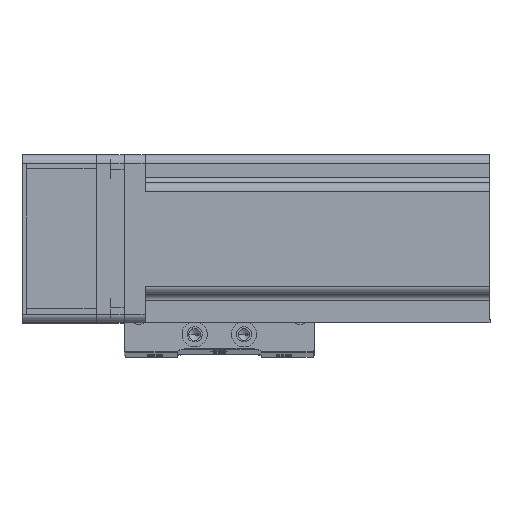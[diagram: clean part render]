
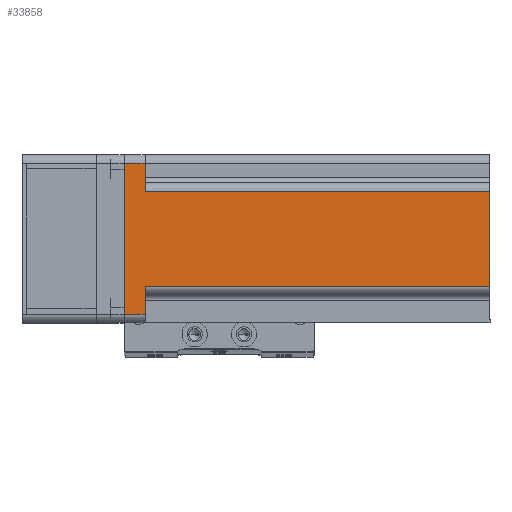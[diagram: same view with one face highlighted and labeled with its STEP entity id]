
A CAD part, top view. The second image highlights one B-rep face of the part: STEP entity #33858.
In plain terms, the highlighted planar face has unit normal (0, 0, 1) as drawn and (0, 1, 0) by its records, which use the part's own axes.
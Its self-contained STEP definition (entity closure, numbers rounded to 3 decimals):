
#231 = DIRECTION ( 'NONE',  ( 0., 0., 1. ) ) ;
#1192 = CARTESIAN_POINT ( 'NONE',  ( -27., 30., 0. ) ) ;
#1205 = EDGE_CURVE ( 'NONE', #46780, #19667, #17143, .T. ) ;
#2283 = CARTESIAN_POINT ( 'NONE',  ( 20., 30., 7.5 ) ) ;
#3023 = EDGE_CURVE ( 'NONE', #20417, #34731, #3530, .T. ) ;
#3398 = DIRECTION ( 'NONE',  ( -1., 0., 0. ) ) ;
#3530 = LINE ( 'NONE', #50076, #14124 ) ;
#3591 = DIRECTION ( 'NONE',  ( 0., 0., -1. ) ) ;
#5054 = CARTESIAN_POINT ( 'NONE',  ( 30., 30., 130.7 ) ) ;
#7333 = CARTESIAN_POINT ( 'NONE',  ( 27., 30., 0. ) ) ;
#9051 = DIRECTION ( 'NONE',  ( 1., 0., 0. ) ) ;
#10497 = CARTESIAN_POINT ( 'NONE',  ( 17., 30., 7.5 ) ) ;
#11724 = EDGE_CURVE ( 'NONE', #38547, #46780, #28233, .T. ) ;
#12965 = AXIS2_PLACEMENT_3D ( 'NONE', #5054, #33000, #9051 ) ;
#13140 = ORIENTED_EDGE ( 'NONE', *, *, #28049, .T. ) ;
#14124 = VECTOR ( 'NONE', #22193, 1000. ) ;
#15686 = DIRECTION ( 'NONE',  ( -1., 0., 0. ) ) ;
#16154 = DIRECTION ( 'NONE',  ( 0., 0., 1. ) ) ;
#17143 = LINE ( 'NONE', #41950, #18409 ) ;
#17170 = EDGE_CURVE ( 'NONE', #20417, #33855, #36175, .T. ) ;
#18409 = VECTOR ( 'NONE', #22066, 1000. ) ;
#19667 = VERTEX_POINT ( 'NONE', #35702 ) ;
#20417 = VERTEX_POINT ( 'NONE', #33344 ) ;
#20768 = PLANE ( 'NONE',  #12965 ) ;
#22066 = DIRECTION ( 'NONE',  ( 1., 0., 0. ) ) ;
#22193 = DIRECTION ( 'NONE',  ( 0., 0., -1. ) ) ;
#22200 = ORIENTED_EDGE ( 'NONE', *, *, #30706, .T. ) ;
#22619 = ORIENTED_EDGE ( 'NONE', *, *, #23698, .T. ) ;
#23698 = EDGE_CURVE ( 'NONE', #33697, #38547, #36717, .T. ) ;
#24177 = CARTESIAN_POINT ( 'NONE',  ( -27., 30., 130.7 ) ) ;
#25459 = VECTOR ( 'NONE', #3591, 1000. ) ;
#25491 = VECTOR ( 'NONE', #50071, 1000. ) ;
#26113 = VECTOR ( 'NONE', #3398, 1000. ) ;
#26957 = VECTOR ( 'NONE', #231, 1000. ) ;
#28049 = EDGE_CURVE ( 'NONE', #19667, #33855, #49908, .T. ) ;
#28233 = LINE ( 'NONE', #24177, #26957 ) ;
#28746 = VECTOR ( 'NONE', #16154, 1000. ) ;
#29916 = ORIENTED_EDGE ( 'NONE', *, *, #17170, .F. ) ;
#30706 = EDGE_CURVE ( 'NONE', #33840, #33697, #46635, .T. ) ;
#31036 = ORIENTED_EDGE ( 'NONE', *, *, #3023, .T. ) ;
#32636 = CARTESIAN_POINT ( 'NONE',  ( -27., 30., 7.5 ) ) ;
#32701 = ORIENTED_EDGE ( 'NONE', *, *, #50327, .F. ) ;
#33000 = DIRECTION ( 'NONE',  ( 0., -1., 0. ) ) ;
#33344 = CARTESIAN_POINT ( 'NONE',  ( 17., 30., 130.7 ) ) ;
#33697 = VERTEX_POINT ( 'NONE', #7333 ) ;
#33840 = VERTEX_POINT ( 'NONE', #40475 ) ;
#33855 = VERTEX_POINT ( 'NONE', #36666 ) ;
#33858 = ADVANCED_FACE ( 'NONE', ( #35591 ), #20768, .F. ) ;
#34731 = VERTEX_POINT ( 'NONE', #10497 ) ;
#34814 = ORIENTED_EDGE ( 'NONE', *, *, #1205, .T. ) ;
#35383 = CARTESIAN_POINT ( 'NONE',  ( 27., 30., 130.7 ) ) ;
#35591 = FACE_OUTER_BOUND ( 'NONE', #48860, .T. ) ;
#35702 = CARTESIAN_POINT ( 'NONE',  ( -17., 30., 7.5 ) ) ;
#36092 = LINE ( 'NONE', #2283, #25491 ) ;
#36175 = LINE ( 'NONE', #39428, #45534 ) ;
#36666 = CARTESIAN_POINT ( 'NONE',  ( -17., 30., 130.7 ) ) ;
#36717 = LINE ( 'NONE', #43180, #26113 ) ;
#38547 = VERTEX_POINT ( 'NONE', #1192 ) ;
#39428 = CARTESIAN_POINT ( 'NONE',  ( 30., 30., 130.7 ) ) ;
#40077 = CARTESIAN_POINT ( 'NONE',  ( -17., 30., 130.7 ) ) ;
#40475 = CARTESIAN_POINT ( 'NONE',  ( 27., 30., 7.5 ) ) ;
#41950 = CARTESIAN_POINT ( 'NONE',  ( -20., 30., 7.5 ) ) ;
#43180 = CARTESIAN_POINT ( 'NONE',  ( 30., 30., 0. ) ) ;
#45534 = VECTOR ( 'NONE', #15686, 1000. ) ;
#46635 = LINE ( 'NONE', #35383, #25459 ) ;
#46780 = VERTEX_POINT ( 'NONE', #32636 ) ;
#48632 = ORIENTED_EDGE ( 'NONE', *, *, #11724, .T. ) ;
#48860 = EDGE_LOOP ( 'NONE', ( #34814, #13140, #29916, #31036, #32701, #22200, #22619, #48632 ) ) ;
#49908 = LINE ( 'NONE', #40077, #28746 ) ;
#50071 = DIRECTION ( 'NONE',  ( -1., 0., 0. ) ) ;
#50076 = CARTESIAN_POINT ( 'NONE',  ( 17., 30., 130.7 ) ) ;
#50327 = EDGE_CURVE ( 'NONE', #33840, #34731, #36092, .T. ) ;
